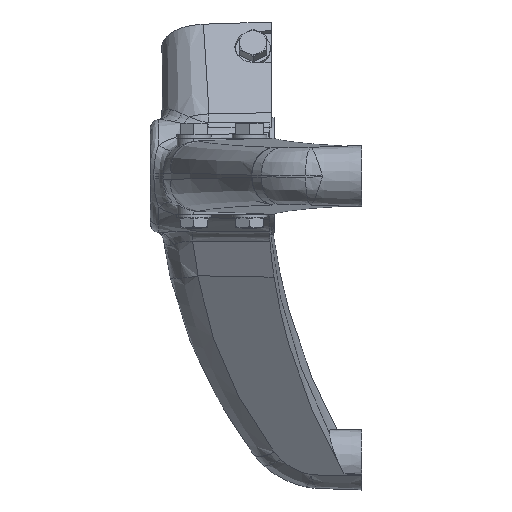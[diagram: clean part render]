
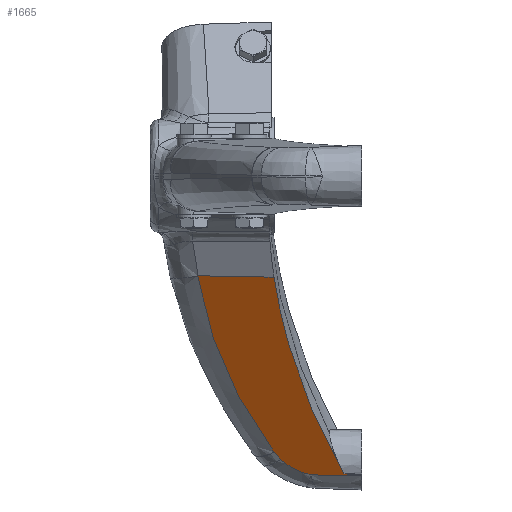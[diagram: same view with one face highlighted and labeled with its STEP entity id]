
A CAD part, left-side view. The second image highlights one B-rep face of the part: STEP entity #1665.
In plain terms, the highlighted planar face has unit normal (-0.843, 0.035, -0.537).
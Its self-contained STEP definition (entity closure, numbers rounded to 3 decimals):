
#54 = PLANE ( 'NONE',  #8520 ) ;
#285 = CARTESIAN_POINT ( 'NONE',  ( 87.397, 114.922, -191.098 ) ) ;
#666 = B_SPLINE_CURVE_WITH_KNOTS ( 'NONE', 3,
 ( #4258, #21355, #4564, #18065, #4489, #16198, #19711, #21505, #14775, #1060 ),
 .UNSPECIFIED., .F., .F.,
 ( 4, 2, 2, 2, 4 ),
 ( 0., 0.25, 0.5, 0.75, 1. ),
 .UNSPECIFIED. ) ;
#948 = CARTESIAN_POINT ( 'NONE',  ( 44.935, 153.733, -121.96 ) ) ;
#1060 = CARTESIAN_POINT ( 'NONE',  ( 94.893, 66.7, -205.993 ) ) ;
#1273 = CARTESIAN_POINT ( 'NONE',  ( 11.716, 167.624, -68.942 ) ) ;
#1409 = VERTEX_POINT ( 'NONE', #19807 ) ;
#1665 = ADVANCED_FACE ( 'NONE', ( #8204 ), #54, .F. ) ;
#1684 = VECTOR ( 'NONE', #18482, 1000. ) ;
#1761 = ORIENTED_EDGE ( 'NONE', *, *, #4599, .F. ) ;
#1851 = CARTESIAN_POINT ( 'NONE',  ( 93.146, 104.552, -200.792 ) ) ;
#1873 = VERTEX_POINT ( 'NONE', #4804 ) ;
#2191 = CARTESIAN_POINT ( 'NONE',  ( 87.257, 115.094, -190.868 ) ) ;
#2254 = EDGE_CURVE ( 'NONE', #1409, #8538, #666, .T. ) ;
#2960 = ORIENTED_EDGE ( 'NONE', *, *, #12288, .F. ) ;
#3025 = CARTESIAN_POINT ( 'NONE',  ( 88.426, 113.652, -192.796 ) ) ;
#3639 = CARTESIAN_POINT ( 'NONE',  ( 96.269, 89.474, -206.671 ) ) ;
#4258 = CARTESIAN_POINT ( 'NONE',  ( 10.147, 115.075, -69.894 ) ) ;
#4279 = DIRECTION ( 'NONE',  ( 0.537, 0., -0.843 ) ) ;
#4305 = ORIENTED_EDGE ( 'NONE', *, *, #2254, .F. ) ;
#4489 = CARTESIAN_POINT ( 'NONE',  ( 46.703, 101.597, -128.121 ) ) ;
#4516 = CARTESIAN_POINT ( 'NONE',  ( 11.716, 167.624, -68.942 ) ) ;
#4564 = CARTESIAN_POINT ( 'NONE',  ( 24.934, 110.94, -93.362 ) ) ;
#4599 = EDGE_CURVE ( 'NONE', #6421, #18972, #11974, .T. ) ;
#4785 = VERTEX_POINT ( 'NONE', #285 ) ;
#4804 = CARTESIAN_POINT ( 'NONE',  ( 94.732, 54.35, -206.541 ) ) ;
#4913 = CARTESIAN_POINT ( 'NONE',  ( 11.747, 167.907, -68.972 ) ) ;
#5101 = CARTESIAN_POINT ( 'NONE',  ( 10.147, 115.075, -69.894 ) ) ;
#5176 = CARTESIAN_POINT ( 'NONE',  ( 10.67, 132.591, -69.577 ) ) ;
#5314 = B_SPLINE_CURVE_WITH_KNOTS ( 'NONE', 3,
 ( #16565, #9560, #5176, #5101 ),
 .UNSPECIFIED., .F., .F.,
 ( 4, 4 ),
 ( 0., 1. ),
 .UNSPECIFIED. ) ;
#6184 = CARTESIAN_POINT ( 'NONE',  ( 11.747, 167.907, -68.972 ) ) ;
#6421 = VERTEX_POINT ( 'NONE', #4913 ) ;
#6452 = CARTESIAN_POINT ( 'NONE',  ( 89.391, 112.208, -194.403 ) ) ;
#6692 = ORIENTED_EDGE ( 'NONE', *, *, #8624, .F. ) ;
#7036 = VERTEX_POINT ( 'NONE', #20524 ) ;
#7788 = B_SPLINE_CURVE_WITH_KNOTS ( 'NONE', 3,
 ( #8254, #21687, #9813, #14885 ),
 .UNSPECIFIED., .F., .F.,
 ( 4, 4 ),
 ( 0., 1. ),
 .UNSPECIFIED. ) ;
#7926 = VERTEX_POINT ( 'NONE', #13917 ) ;
#8077 = CARTESIAN_POINT ( 'NONE',  ( 11.747, 167.907, -68.972 ) ) ;
#8204 = FACE_OUTER_BOUND ( 'NONE', #11582, .T. ) ;
#8254 = CARTESIAN_POINT ( 'NONE',  ( 94.893, 66.7, -205.993 ) ) ;
#8362 = B_SPLINE_CURVE_WITH_KNOTS ( 'NONE', 3,
 ( #17187, #20399, #10249, #8554 ),
 .UNSPECIFIED., .F., .F.,
 ( 4, 4 ),
 ( 0., 1. ),
 .UNSPECIFIED. ) ;
#8382 = CARTESIAN_POINT ( 'NONE',  ( 87.397, 114.922, -191.098 ) ) ;
#8491 = CARTESIAN_POINT ( 'NONE',  ( 96.905, 52.079, -210.098 ) ) ;
#8520 = AXIS2_PLACEMENT_3D ( 'NONE', #8491, #11744, #16971 ) ;
#8538 = VERTEX_POINT ( 'NONE', #16306 ) ;
#8554 = CARTESIAN_POINT ( 'NONE',  ( 87.257, 115.094, -190.868 ) ) ;
#8584 = CARTESIAN_POINT ( 'NONE',  ( 91.832, 107.814, -198.519 ) ) ;
#8624 = EDGE_CURVE ( 'NONE', #11159, #4785, #16725, .T. ) ;
#9312 = ORIENTED_EDGE ( 'NONE', *, *, #18763, .F. ) ;
#9464 = CARTESIAN_POINT ( 'NONE',  ( 81.652, 122.011, -181.625 ) ) ;
#9538 = CARTESIAN_POINT ( 'NONE',  ( 57.618, 144.858, -142.435 ) ) ;
#9560 = CARTESIAN_POINT ( 'NONE',  ( 11.193, 150.107, -69.259 ) ) ;
#9644 = EDGE_CURVE ( 'NONE', #10033, #6421, #9739, .T. ) ;
#9739 = B_SPLINE_CURVE_WITH_KNOTS ( 'NONE', 3,
 ( #21325, #9464, #21401, #11165, #9538, #948, #18035, #12894, #19764, #6184 ),
 .UNSPECIFIED., .F., .F.,
 ( 4, 2, 2, 2, 4 ),
 ( 0., 0.25, 0.5, 0.75, 1. ),
 .UNSPECIFIED. ) ;
#9775 = CARTESIAN_POINT ( 'NONE',  ( 96.906, 111.128, -206.264 ) ) ;
#9813 = CARTESIAN_POINT ( 'NONE',  ( 94.786, 58.467, -206.358 ) ) ;
#10033 = VERTEX_POINT ( 'NONE', #2191 ) ;
#10249 = CARTESIAN_POINT ( 'NONE',  ( 87.304, 115.037, -190.945 ) ) ;
#10308 = VECTOR ( 'NONE', #4279, 1000. ) ;
#10398 = ORIENTED_EDGE ( 'NONE', *, *, #9644, .F. ) ;
#10437 = CARTESIAN_POINT ( 'NONE',  ( 90.276, 110.614, -195.896 ) ) ;
#10693 = EDGE_CURVE ( 'NONE', #7926, #11159, #18171, .T. ) ;
#11159 = VERTEX_POINT ( 'NONE', #18030 ) ;
#11165 = CARTESIAN_POINT ( 'NONE',  ( 63.811, 139.767, -152.481 ) ) ;
#11582 = EDGE_LOOP ( 'NONE', ( #9312, #6692, #19314, #15126, #11825, #12590, #4305, #2960, #1761, #10398 ) ) ;
#11744 = DIRECTION ( 'NONE',  ( 0.843, -0.035, 0.537 ) ) ;
#11825 = ORIENTED_EDGE ( 'NONE', *, *, #15599, .F. ) ;
#11974 = B_SPLINE_CURVE_WITH_KNOTS ( 'NONE', 3,
 ( #8077, #12982, #14689, #1273 ),
 .UNSPECIFIED., .F., .F.,
 ( 4, 4 ),
 ( 0., 1. ),
 .UNSPECIFIED. ) ;
#12216 = CARTESIAN_POINT ( 'NONE',  ( 95.174, 97.398, -204.439 ) ) ;
#12288 = EDGE_CURVE ( 'NONE', #18972, #1409, #5314, .T. ) ;
#12590 = ORIENTED_EDGE ( 'NONE', *, *, #15900, .F. ) ;
#12894 = CARTESIAN_POINT ( 'NONE',  ( 25.243, 163.737, -90.416 ) ) ;
#12982 = CARTESIAN_POINT ( 'NONE',  ( 11.729, 167.815, -68.95 ) ) ;
#13238 = CARTESIAN_POINT ( 'NONE',  ( 90.276, 110.614, -195.896 ) ) ;
#13917 = CARTESIAN_POINT ( 'NONE',  ( 96.269, 89.474, -206.671 ) ) ;
#14689 = CARTESIAN_POINT ( 'NONE',  ( 11.719, 167.72, -68.94 ) ) ;
#14775 = CARTESIAN_POINT ( 'NONE',  ( 88.32, 72.909, -195.278 ) ) ;
#14885 = CARTESIAN_POINT ( 'NONE',  ( 94.732, 54.35, -206.541 ) ) ;
#15126 = ORIENTED_EDGE ( 'NONE', *, *, #18223, .F. ) ;
#15436 = CARTESIAN_POINT ( 'NONE',  ( 95.887, 93.506, -205.811 ) ) ;
#15599 = EDGE_CURVE ( 'NONE', #1873, #7036, #18838, .T. ) ;
#15847 = LINE ( 'NONE', #9775, #1684 ) ;
#15900 = EDGE_CURVE ( 'NONE', #8538, #1873, #7788, .T. ) ;
#16198 = CARTESIAN_POINT ( 'NONE',  ( 60.892, 93.498, -150.908 ) ) ;
#16306 = CARTESIAN_POINT ( 'NONE',  ( 94.893, 66.7, -205.993 ) ) ;
#16517 = CARTESIAN_POINT ( 'NONE',  ( 51.797, 54.35, -139.182 ) ) ;
#16565 = CARTESIAN_POINT ( 'NONE',  ( 11.716, 167.624, -68.942 ) ) ;
#16725 = B_SPLINE_CURVE_WITH_KNOTS ( 'NONE', 3,
 ( #13238, #6452, #3025, #8382 ),
 .UNSPECIFIED., .F., .F.,
 ( 4, 4 ),
 ( 0., 1. ),
 .UNSPECIFIED. ) ;
#16971 = DIRECTION ( 'NONE',  ( 0.029, 0.999, 0.019 ) ) ;
#17187 = CARTESIAN_POINT ( 'NONE',  ( 87.397, 114.922, -191.098 ) ) ;
#18030 = CARTESIAN_POINT ( 'NONE',  ( 90.276, 110.614, -195.896 ) ) ;
#18035 = CARTESIAN_POINT ( 'NONE',  ( 38.445, 157.519, -111.532 ) ) ;
#18065 = CARTESIAN_POINT ( 'NONE',  ( 39.501, 105.09, -116.596 ) ) ;
#18171 = B_SPLINE_CURVE_WITH_KNOTS ( 'NONE', 3,
 ( #3639, #15436, #12216, #1851, #8584, #10437 ),
 .UNSPECIFIED., .F., .F.,
 ( 4, 2, 4 ),
 ( 0., 0.5, 1. ),
 .UNSPECIFIED. ) ;
#18223 = EDGE_CURVE ( 'NONE', #7036, #7926, #15847, .T. ) ;
#18482 = DIRECTION ( 'NONE',  ( 0.029, 0.999, 0.019 ) ) ;
#18763 = EDGE_CURVE ( 'NONE', #4785, #10033, #8362, .T. ) ;
#18838 = LINE ( 'NONE', #16517, #10308 ) ;
#18972 = VERTEX_POINT ( 'NONE', #4516 ) ;
#19314 = ORIENTED_EDGE ( 'NONE', *, *, #10693, .F. ) ;
#19711 = CARTESIAN_POINT ( 'NONE',  ( 67.88, 88.891, -162.171 ) ) ;
#19764 = CARTESIAN_POINT ( 'NONE',  ( 18.531, 166.169, -79.727 ) ) ;
#19807 = CARTESIAN_POINT ( 'NONE',  ( 10.147, 115.075, -69.894 ) ) ;
#20399 = CARTESIAN_POINT ( 'NONE',  ( 87.35, 114.979, -191.022 ) ) ;
#20524 = CARTESIAN_POINT ( 'NONE',  ( 95.234, 54.35, -207.33 ) ) ;
#21325 = CARTESIAN_POINT ( 'NONE',  ( 87.257, 115.094, -190.868 ) ) ;
#21355 = CARTESIAN_POINT ( 'NONE',  ( 17.568, 113.295, -81.654 ) ) ;
#21401 = CARTESIAN_POINT ( 'NONE',  ( 75.828, 128.344, -172.076 ) ) ;
#21505 = CARTESIAN_POINT ( 'NONE',  ( 81.595, 78.597, -184.356 ) ) ;
#21687 = CARTESIAN_POINT ( 'NONE',  ( 94.84, 62.583, -206.175 ) ) ;
